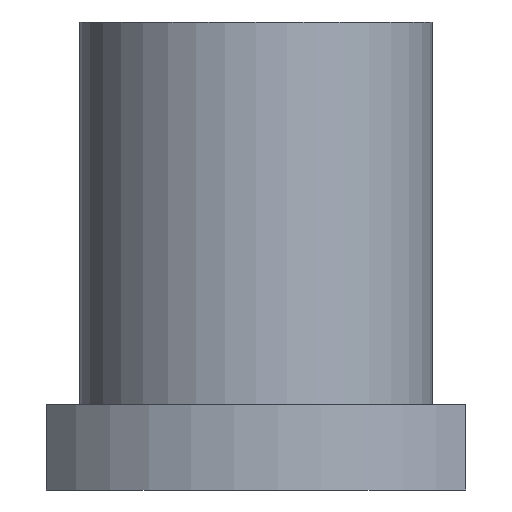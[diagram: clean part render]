
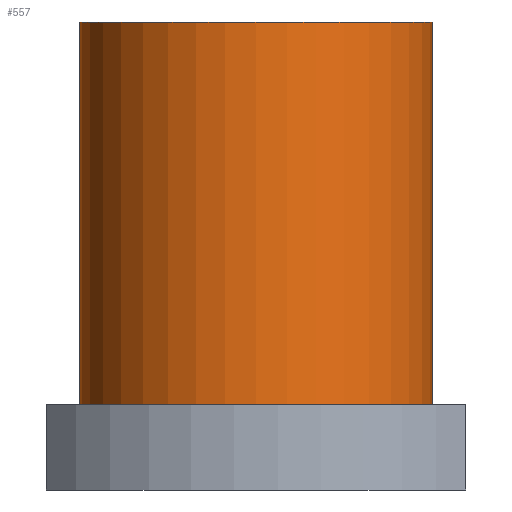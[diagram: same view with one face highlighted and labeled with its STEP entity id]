
A CAD part, front view. The second image highlights one B-rep face of the part: STEP entity #557.
In plain terms, the highlighted cylindrical face has radius 29 mm (diameter 58 mm), a partial arc.
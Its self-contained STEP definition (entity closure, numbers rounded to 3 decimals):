
#131=CARTESIAN_POINT('',(0.,0.,77.));
#132=DIRECTION('',(0.,0.,1.));
#133=DIRECTION('',(-1.,0.,0.));
#134=AXIS2_PLACEMENT_3D('',#131,#132,#133);
#151=DIRECTION('',(0.,0.,-1.));
#152=VECTOR('',#151,63.);
#153=CARTESIAN_POINT('',(29.,0.,77.));
#154=LINE('',#153,#152);
#155=DIRECTION('',(0.,0.,-1.));
#156=VECTOR('',#155,63.);
#157=CARTESIAN_POINT('',(-29.,0.,77.));
#158=LINE('',#157,#156);
#159=CARTESIAN_POINT('',(0.,0.,14.));
#160=DIRECTION('',(0.,0.,-1.));
#161=DIRECTION('',(1.,0.,0.));
#162=AXIS2_PLACEMENT_3D('',#159,#160,#161);
#351=CARTESIAN_POINT('',(29.,0.,14.));
#352=CARTESIAN_POINT('',(-29.,0.,14.));
#353=VERTEX_POINT('',#351);
#354=VERTEX_POINT('',#352);
#355=CARTESIAN_POINT('',(-29.,0.,77.));
#356=CARTESIAN_POINT('',(29.,0.,77.));
#357=VERTEX_POINT('',#355);
#358=VERTEX_POINT('',#356);
#543=CARTESIAN_POINT('',(0.,0.,77.));
#544=DIRECTION('',(0.,0.,1.));
#545=DIRECTION('',(1.,0.,0.));
#546=AXIS2_PLACEMENT_3D('',#543,#544,#545);
#547=CYLINDRICAL_SURFACE('',#546,29.);
#548=ORIENTED_EDGE('',*,*,#532,.T.);
#550=ORIENTED_EDGE('',*,*,#549,.T.);
#552=ORIENTED_EDGE('',*,*,#551,.T.);
#554=ORIENTED_EDGE('',*,*,#553,.F.);
#555=EDGE_LOOP('',(#548,#550,#552,#554));
#556=FACE_OUTER_BOUND('',#555,.F.);
#135=CIRCLE('',#134,29.);
#163=CIRCLE('',#162,29.);
#532=EDGE_CURVE('',#357,#358,#135,.T.);
#549=EDGE_CURVE('',#358,#353,#154,.T.);
#551=EDGE_CURVE('',#353,#354,#163,.T.);
#553=EDGE_CURVE('',#357,#354,#158,.T.);
#557=ADVANCED_FACE('',(#556),#547,.T.);
